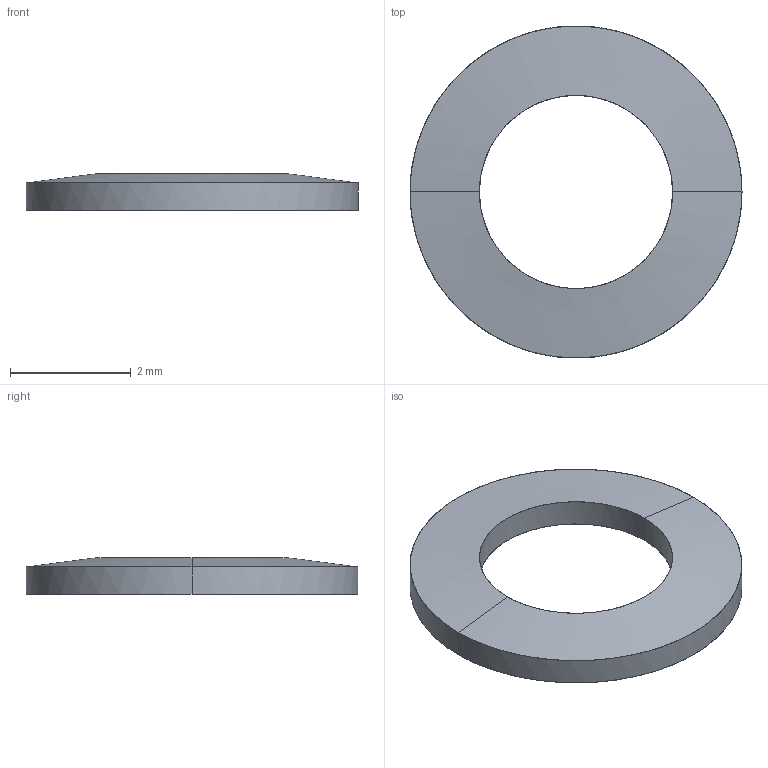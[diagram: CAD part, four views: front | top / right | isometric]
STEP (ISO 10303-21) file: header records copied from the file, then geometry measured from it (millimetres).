
FILE_DESCRIPTION(/* description */ (''),/* implementation_level */ '2;1');
FILE_NAME(/* name */ '11.air-assist#11.1#GTS3',/* time_stamp */ '2014-12-01T20:19:37+01:00',/* author */ (''),/* organization */ (''),/* preprocessor_version */ 'ST-DEVELOPER v14',/* originating_system */ '',/* authorisation */ '');
FILE_SCHEMA (('AUTOMOTIVE_DESIGN'));
Length unit declared in the file: millimetre
Products named in the file (2): Document; washer Schnorr-like, lock, M3
Assembly tree (1 placements, depth 2):
  Document
    washer Schnorr-like, lock, M3
Bounding box: 5.5 x 5.5 x 0.6 mm (x, y, z)
Surface area: 44 mm2 (no closed solid volume)
Topology: 0 solids, 8 shells, 8 faces, 32 edges, 32 vertices
Faces by surface type: bspline 8
Entity records: 755 total; most frequent: CARTESIAN_POINT 356, B_SPLINE_CURVE_WITH_KNOTS 48, ORIENTED_EDGE 32, PCURVE 32, DEFINITIONAL_REPRESENTATION 32, SURFACE_CURVE 32, EDGE_CURVE 32, VERTEX_POINT 32
